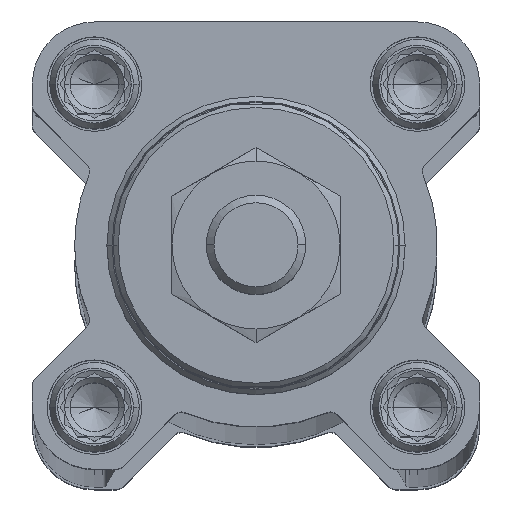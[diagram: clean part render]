
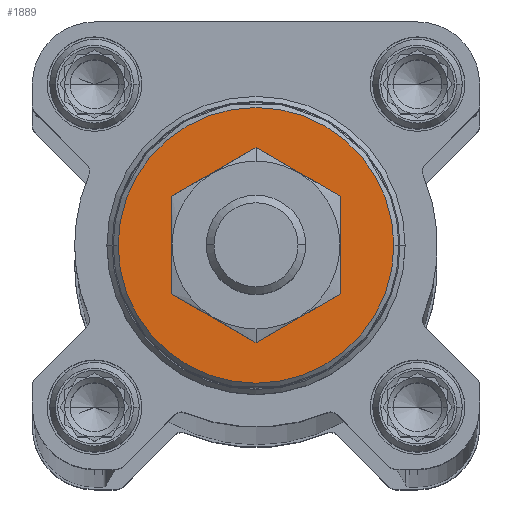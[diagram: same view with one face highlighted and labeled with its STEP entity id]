
A CAD part, top view. The second image highlights one B-rep face of the part: STEP entity #1889.
In plain terms, the highlighted planar face has unit normal (0, 0, 1).
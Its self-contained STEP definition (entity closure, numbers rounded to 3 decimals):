
#1015 = AXIS2_PLACEMENT_3D ( 'NONE', #9946, #16029, #15387 ) ;
#1889 = ADVANCED_FACE ( 'NONE', ( #15242, #3219 ), #10760, .F. ) ;
#2380 = DIRECTION ( 'NONE',  ( 0., 0., -1. ) ) ;
#2720 = DIRECTION ( 'NONE',  ( 0., 0., -1. ) ) ;
#3219 = FACE_BOUND ( 'NONE', #8759, .T. ) ;
#4485 = CARTESIAN_POINT ( 'NONE',  ( -13.869, 0., 18. ) ) ;
#4603 = ORIENTED_EDGE ( 'NONE', *, *, #10212, .F. ) ;
#4921 = DIRECTION ( 'NONE',  ( 0., 0., -1. ) ) ;
#5022 = CARTESIAN_POINT ( 'NONE',  ( 0., 0., 18. ) ) ;
#6077 = VERTEX_POINT ( 'NONE', #6517 ) ;
#6498 = DIRECTION ( 'NONE',  ( -1., 0., 0. ) ) ;
#6517 = CARTESIAN_POINT ( 'NONE',  ( 6., 0., 18. ) ) ;
#7165 = CIRCLE ( 'NONE', #11284, 13.869 ) ;
#7801 = EDGE_CURVE ( 'NONE', #11324, #13103, #7165, .T. ) ;
#8759 = EDGE_LOOP ( 'NONE', ( #9090, #10511 ) ) ;
#8870 = DIRECTION ( 'NONE',  ( -1., 0., 0. ) ) ;
#9090 = ORIENTED_EDGE ( 'NONE', *, *, #11271, .T. ) ;
#9267 = DIRECTION ( 'NONE',  ( 0., 0., -1. ) ) ;
#9946 = CARTESIAN_POINT ( 'NONE',  ( 0., 0., 18. ) ) ;
#10212 = EDGE_CURVE ( 'NONE', #13103, #11324, #14621, .T. ) ;
#10511 = ORIENTED_EDGE ( 'NONE', *, *, #11520, .T. ) ;
#10527 = AXIS2_PLACEMENT_3D ( 'NONE', #16280, #2380, #16095 ) ;
#10760 = PLANE ( 'NONE',  #14810 ) ;
#11271 = EDGE_CURVE ( 'NONE', #17248, #6077, #18441, .T. ) ;
#11284 = AXIS2_PLACEMENT_3D ( 'NONE', #16932, #9267, #6498 ) ;
#11324 = VERTEX_POINT ( 'NONE', #18504 ) ;
#11520 = EDGE_CURVE ( 'NONE', #6077, #17248, #14657, .T. ) ;
#12560 = DIRECTION ( 'NONE',  ( 0., -1., 0. ) ) ;
#13103 = VERTEX_POINT ( 'NONE', #4485 ) ;
#14026 = ORIENTED_EDGE ( 'NONE', *, *, #7801, .F. ) ;
#14621 = CIRCLE ( 'NONE', #10527, 13.869 ) ;
#14657 = CIRCLE ( 'NONE', #1015, 6. ) ;
#14810 = AXIS2_PLACEMENT_3D ( 'NONE', #5022, #4921, #12560 ) ;
#15242 = FACE_OUTER_BOUND ( 'NONE', #17072, .T. ) ;
#15387 = DIRECTION ( 'NONE',  ( -1., 0., 0. ) ) ;
#16029 = DIRECTION ( 'NONE',  ( 0., 0., -1. ) ) ;
#16095 = DIRECTION ( 'NONE',  ( -1., 0., 0. ) ) ;
#16127 = CARTESIAN_POINT ( 'NONE',  ( -6., 0., 18. ) ) ;
#16280 = CARTESIAN_POINT ( 'NONE',  ( 0., 0., 18. ) ) ;
#16435 = CARTESIAN_POINT ( 'NONE',  ( 0., 0., 18. ) ) ;
#16853 = AXIS2_PLACEMENT_3D ( 'NONE', #16435, #2720, #8870 ) ;
#16932 = CARTESIAN_POINT ( 'NONE',  ( 0., 0., 18. ) ) ;
#17072 = EDGE_LOOP ( 'NONE', ( #4603, #14026 ) ) ;
#17248 = VERTEX_POINT ( 'NONE', #16127 ) ;
#18441 = CIRCLE ( 'NONE', #16853, 6. ) ;
#18504 = CARTESIAN_POINT ( 'NONE',  ( 13.869, 0., 18. ) ) ;
